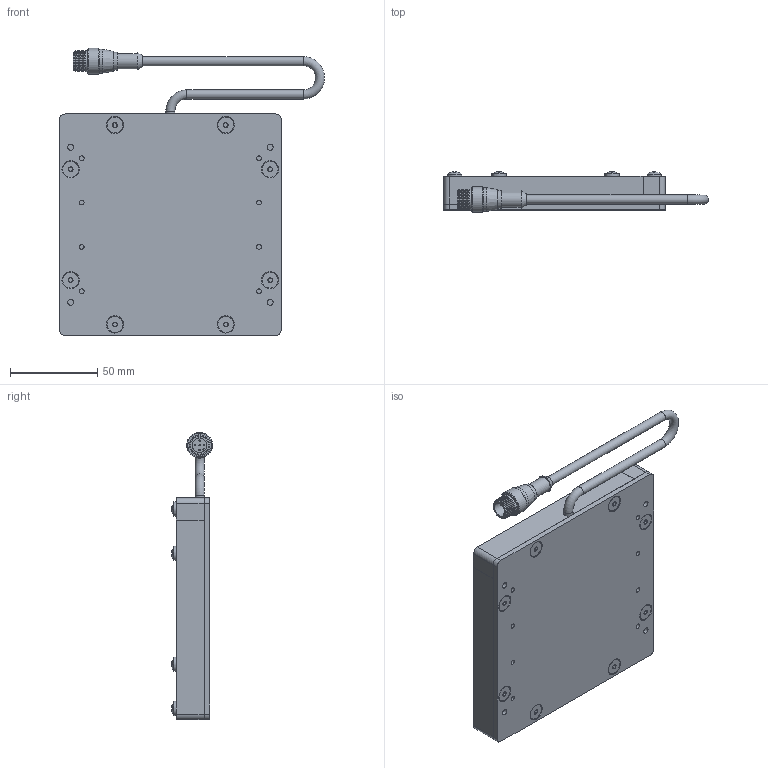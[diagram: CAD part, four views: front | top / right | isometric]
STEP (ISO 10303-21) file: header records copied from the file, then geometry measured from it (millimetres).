
FILE_DESCRIPTION (( 'STEP AP214' ), '1' );
FILE_NAME ('SBL44-XXX.STEP', '2026-04-17T19:01:33', ( '' ), ( '' ), 'SwSTEP 2.0', 'SolidWorks 2025', '' );
FILE_SCHEMA (( 'AUTOMOTIVE_DESIGN' ));
Length unit declared in the file: inch
Products named in the file (11): M12 Connector 4,5 and 8 pin_RS4.5T; SBL3 to 18in rail_04in rail; Hex Standoff .375 x 8-32; MC Pigtail 24; SBL3 to 18in rail_04in No CG; WD-SBLYYXX_4x4 with holes; BackPlate BLYYXX_0404; 8-32 x .375 Nylon Screw_.375" 94611A192; SC Pigtail Complete 18_5pin; SBL44-XXX; 8-32 x 0.375 FHCS (92210A192)_92210A192
Assembly tree (33 placements, depth 3):
  SBL44-XXX
    BackPlate BLYYXX_0404
    SBL3 to 18in rail_04in rail
    SBL3 to 18in rail_04in No CG  x3
    SC Pigtail Complete 18_5pin
      MC Pigtail 24
      M12 Connector 4,5 and 8 pin_RS4.5T
    WD-SBLYYXX_4x4 with holes
    Hex Standoff .375 x 8-32  x8
    8-32 x 0.375 FHCS (92210A192)_92210A192  x8
    8-32 x .375 Nylon Screw_.375" 94611A192  x8
Bounding box: 151.8 x 23.38 x 164.53 mm (x, y, z)
Volume: 176051.4 mm3; surface area: 111845.5 mm2
Topology: 32 solids, 32 shells, 1002 faces, 2500 edges, 1595 vertices
Faces by surface type: plane 377, cylinder 228, bspline 216, cone 147, torus 21, sphere 13
Full cylindrical faces by diameter (mm): 0.762 x5, 2.705 x8, 3.454 x12, 4.496 x24, 5.207 x3, 6.604 x8, 6.858 x8, 8.128 x8, 8.382 x1, 8.636 x1, 9.119 x8, 10.16 x1, 10.541 x1, 11.938 x1, 13.716 x2, 14.732 x1
Entity records: 14484 total; most frequent: CARTESIAN_POINT 5405, DIRECTION 1584, ORIENTED_EDGE 1366, EDGE_CURVE 683, AXIS2_PLACEMENT_3D 651, EDGE_LOOP 524, VERTEX_POINT 501, FACE_OUTER_BOUND 397
